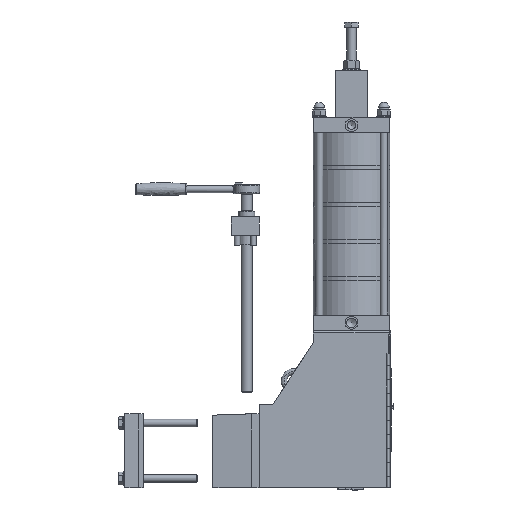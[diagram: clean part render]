
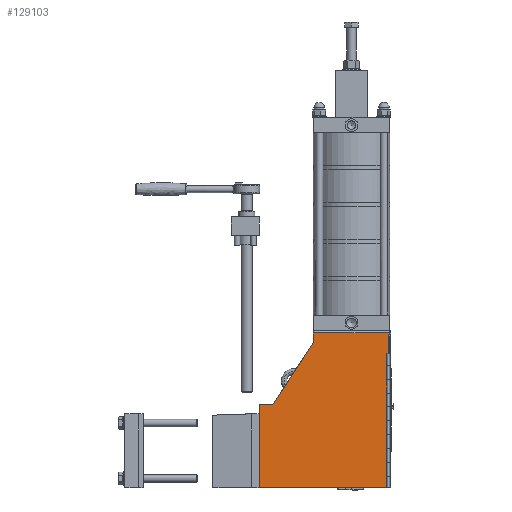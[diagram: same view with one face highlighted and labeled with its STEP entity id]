
A CAD part, left-side view. The second image highlights one B-rep face of the part: STEP entity #129103.
In plain terms, the highlighted planar face has unit normal (-1, 0, 0).
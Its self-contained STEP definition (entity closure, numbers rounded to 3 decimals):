
#18682=LINE('',#221171,#29597);
#18704=LINE('',#221220,#29619);
#18710=LINE('',#221230,#29625);
#18728=LINE('',#221283,#29643);
#18777=LINE('',#221471,#29692);
#18780=LINE('',#221477,#29695);
#18794=LINE('',#221513,#29709);
#18818=LINE('',#221607,#29733);
#18819=LINE('',#221609,#29734);
#29597=VECTOR('',#152789,10.);
#29619=VECTOR('',#152821,10.);
#29625=VECTOR('',#152829,10.);
#29643=VECTOR('',#152881,10.);
#29692=VECTOR('',#153108,10.);
#29695=VECTOR('',#153113,10.);
#29709=VECTOR('',#153147,10.);
#29733=VECTOR('',#153261,10.);
#29734=VECTOR('',#153264,10.);
#37441=FACE_OUTER_BOUND('',#44727,.T.);
#44727=EDGE_LOOP('',(#108240,#108241,#108242,#108243,#108244,#108245,#108246,
#108247,#108248));
#57460=VERTEX_POINT('',#221168);
#57461=VERTEX_POINT('',#221170);
#57482=VERTEX_POINT('',#221217);
#57483=VERTEX_POINT('',#221219);
#57486=VERTEX_POINT('',#221229);
#57504=VERTEX_POINT('',#221280);
#57554=VERTEX_POINT('',#221469);
#57556=VERTEX_POINT('',#221475);
#57593=VERTEX_POINT('',#221605);
#74571=EDGE_CURVE('',#57460,#57461,#18682,.T.);
#74597=EDGE_CURVE('',#57482,#57483,#18704,.T.);
#74603=EDGE_CURVE('',#57483,#57486,#18710,.T.);
#74631=EDGE_CURVE('',#57486,#57504,#18728,.T.);
#74719=EDGE_CURVE('',#57460,#57554,#18777,.T.);
#74722=EDGE_CURVE('',#57554,#57556,#18780,.T.);
#74740=EDGE_CURVE('',#57461,#57482,#18794,.T.);
#74782=EDGE_CURVE('',#57504,#57593,#18818,.T.);
#74783=EDGE_CURVE('',#57593,#57556,#18819,.T.);
#108240=ORIENTED_EDGE('',*,*,#74783,.F.);
#108241=ORIENTED_EDGE('',*,*,#74782,.F.);
#108242=ORIENTED_EDGE('',*,*,#74631,.F.);
#108243=ORIENTED_EDGE('',*,*,#74603,.F.);
#108244=ORIENTED_EDGE('',*,*,#74597,.F.);
#108245=ORIENTED_EDGE('',*,*,#74740,.F.);
#108246=ORIENTED_EDGE('',*,*,#74571,.F.);
#108247=ORIENTED_EDGE('',*,*,#74719,.T.);
#108248=ORIENTED_EDGE('',*,*,#74722,.T.);
#116331=PLANE('',#134285);
#129103=ADVANCED_FACE('',(#37441),#116331,.F.);
#134285=AXIS2_PLACEMENT_3D('',#221608,#153262,#153263);
#152789=DIRECTION('',(0.,1.,0.));
#152821=DIRECTION('',(0.,-1.,0.));
#152829=DIRECTION('',(0.,-0.545,0.839));
#152881=DIRECTION('',(0.,0.,1.));
#153108=DIRECTION('',(0.,0.,1.));
#153113=DIRECTION('',(0.,-1.,0.));
#153147=DIRECTION('',(0.,0.,1.));
#153261=DIRECTION('',(0.,-1.,0.));
#153262=DIRECTION('center_axis',(1.,0.,0.));
#153263=DIRECTION('ref_axis',(0.,1.,0.));
#153264=DIRECTION('',(0.,0.,-1.));
#221168=CARTESIAN_POINT('',(-89.,-276.5,0.));
#221170=CARTESIAN_POINT('',(-89.,0.,0.));
#221171=CARTESIAN_POINT('',(-89.,0.,0.));
#221217=CARTESIAN_POINT('',(-89.,0.,180.));
#221219=CARTESIAN_POINT('',(-89.,-30.,180.));
#221220=CARTESIAN_POINT('',(-89.,-30.,180.));
#221229=CARTESIAN_POINT('',(-89.,-117.67,315.));
#221230=CARTESIAN_POINT('',(-89.,-117.67,315.));
#221280=CARTESIAN_POINT('',(-89.,-117.67,335.));
#221283=CARTESIAN_POINT('',(-89.,-117.67,340.));
#221469=CARTESIAN_POINT('',(-89.,-276.5,290.));
#221471=CARTESIAN_POINT('',(-89.,-276.5,222.525));
#221475=CARTESIAN_POINT('',(-89.,-280.,290.));
#221477=CARTESIAN_POINT('',(-89.,-219.087,290.));
#221513=CARTESIAN_POINT('',(-89.,0.,180.));
#221605=CARTESIAN_POINT('',(-89.,-280.,335.));
#221607=CARTESIAN_POINT('',(-89.,-219.087,335.));
#221608=CARTESIAN_POINT('Origin',(-89.,-155.675,155.049));
#221609=CARTESIAN_POINT('',(-89.,-280.,77.525));
